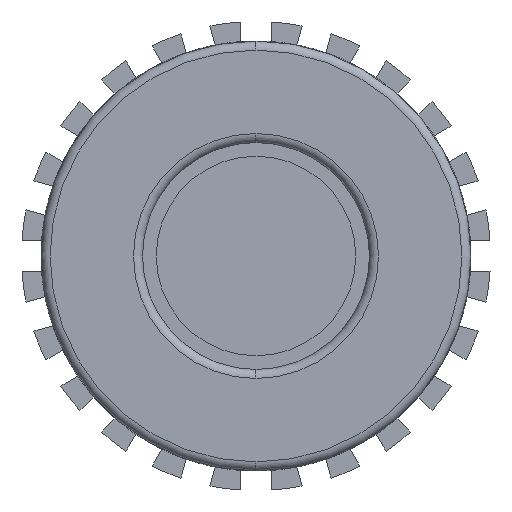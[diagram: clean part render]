
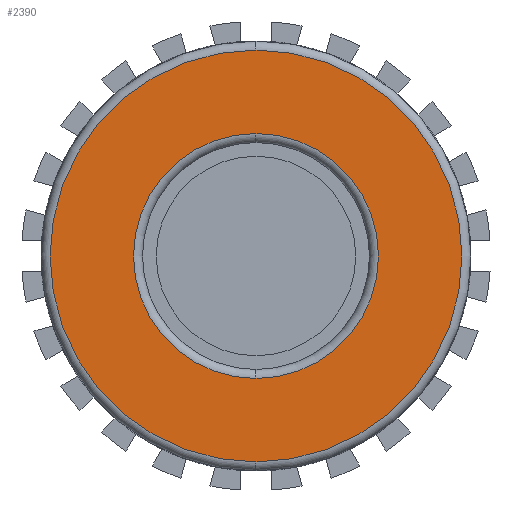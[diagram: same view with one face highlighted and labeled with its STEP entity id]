
A CAD part, left-side view. The second image highlights one B-rep face of the part: STEP entity #2390.
In plain terms, the highlighted planar face has unit normal (-1, 0, 0).
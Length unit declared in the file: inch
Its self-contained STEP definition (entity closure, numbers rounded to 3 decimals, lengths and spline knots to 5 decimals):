
#224 = CIRCLE ( 'NONE', #471, 0.91333 ) ;
#357 = CARTESIAN_POINT ( 'NONE',  ( -3.53843, 0., 0. ) ) ;
#358 = DIRECTION ( 'NONE',  ( -1., 0., 0. ) ) ;
#359 = DIRECTION ( 'NONE',  ( 0., 0., -1. ) ) ;
#392 = AXIS2_PLACEMENT_3D ( 'NONE', #1876, #1877, #1878 ) ;
#433 = AXIS2_PLACEMENT_3D ( 'NONE', #1082, #1083, #1084 ) ;
#471 = AXIS2_PLACEMENT_3D ( 'NONE', #357, #358, #359 ) ;
#515 = AXIS2_PLACEMENT_3D ( 'NONE', #3978, #3979, #3980 ) ;
#589 = AXIS2_PLACEMENT_3D ( 'NONE', #2004, #2003, #2008 ) ;
#812 = CIRCLE ( 'NONE', #433, 0.54333 ) ;
#1082 = CARTESIAN_POINT ( 'NONE',  ( -3.53843, 0., 0. ) ) ;
#1083 = DIRECTION ( 'NONE',  ( 1., 0., 0. ) ) ;
#1084 = DIRECTION ( 'NONE',  ( 0., 0., -1. ) ) ;
#1117 = CIRCLE ( 'NONE', #515, 0.54333 ) ;
#1747 = CIRCLE ( 'NONE', #392, 0.91333 ) ;
#1876 = CARTESIAN_POINT ( 'NONE',  ( -3.53843, 0., 0. ) ) ;
#1877 = DIRECTION ( 'NONE',  ( -1., 0., 0. ) ) ;
#1878 = DIRECTION ( 'NONE',  ( 0., 0., -1. ) ) ;
#1939 = FACE_BOUND ( 'NONE', #3208, .T. ) ;
#1943 = FACE_OUTER_BOUND ( 'NONE', #3265, .T. ) ;
#2003 = DIRECTION ( 'NONE',  ( 1., 0., 0. ) ) ;
#2004 = CARTESIAN_POINT ( 'NONE',  ( -3.53843, 0., 0. ) ) ;
#2006 = PLANE ( 'NONE',  #589 ) ;
#2008 = DIRECTION ( 'NONE',  ( 0., 0., -1. ) ) ;
#2390 = ADVANCED_FACE ( 'NONE', ( #1939, #1943 ), #2006, .F. ) ;
#2675 = VERTEX_POINT ( 'NONE', #3880 ) ;
#2676 = VERTEX_POINT ( 'NONE', #3881 ) ;
#2682 = VERTEX_POINT ( 'NONE', #3887 ) ;
#2685 = VERTEX_POINT ( 'NONE', #3890 ) ;
#3121 = ORIENTED_EDGE ( 'NONE', *, *, #3813, .T. ) ;
#3122 = ORIENTED_EDGE ( 'NONE', *, *, #3635, .T. ) ;
#3124 = ORIENTED_EDGE ( 'NONE', *, *, #3449, .T. ) ;
#3126 = ORIENTED_EDGE ( 'NONE', *, *, #3717, .T. ) ;
#3208 = EDGE_LOOP ( 'NONE', ( #3126, #3124 ) ) ;
#3265 = EDGE_LOOP ( 'NONE', ( #3121, #3122 ) ) ;
#3449 = EDGE_CURVE ( 'NONE', #2682, #2685, #1117, .T. ) ;
#3635 = EDGE_CURVE ( 'NONE', #2675, #2676, #224, .T. ) ;
#3717 = EDGE_CURVE ( 'NONE', #2685, #2682, #812, .T. ) ;
#3813 = EDGE_CURVE ( 'NONE', #2676, #2675, #1747, .T. ) ;
#3880 = CARTESIAN_POINT ( 'NONE',  ( -3.53843, 0., 0.91333 ) ) ;
#3881 = CARTESIAN_POINT ( 'NONE',  ( -3.53843, 0., -0.91333 ) ) ;
#3887 = CARTESIAN_POINT ( 'NONE',  ( -3.53843, 0., 0.54333 ) ) ;
#3890 = CARTESIAN_POINT ( 'NONE',  ( -3.53843, 0., -0.54333 ) ) ;
#3978 = CARTESIAN_POINT ( 'NONE',  ( -3.53843, 0., 0. ) ) ;
#3979 = DIRECTION ( 'NONE',  ( 1., 0., 0. ) ) ;
#3980 = DIRECTION ( 'NONE',  ( 0., 0., -1. ) ) ;
